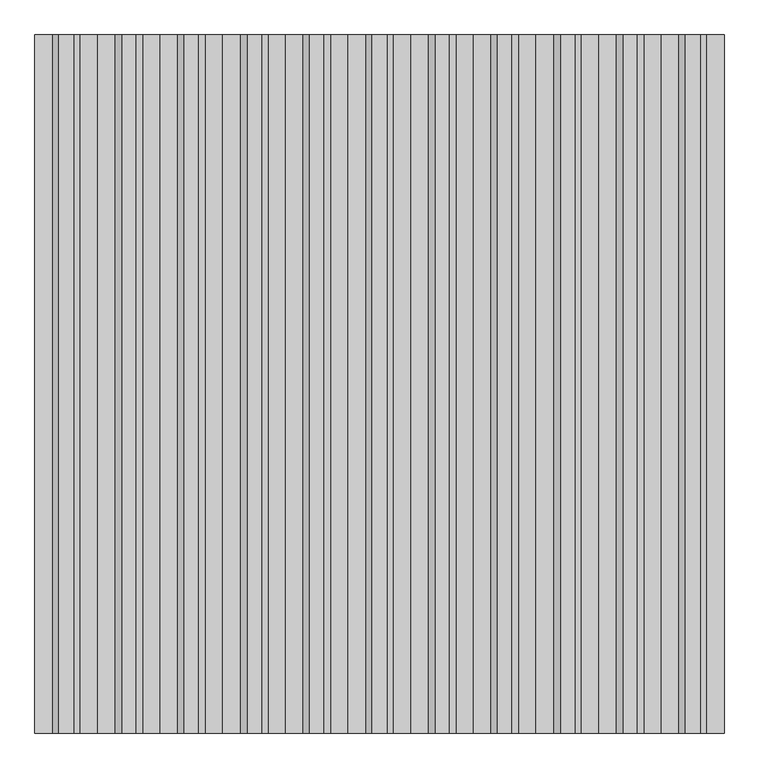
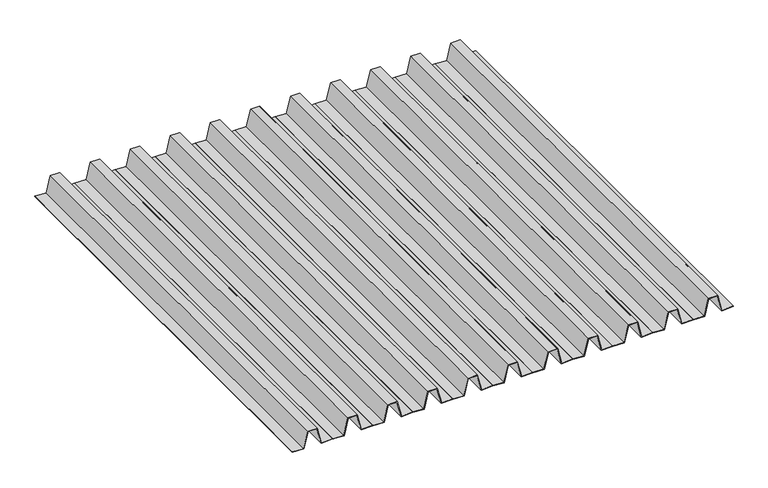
"""IFC4 building model written with IfcOpenShell, lengths in millimetres: proxy geometry, Renson_Amani_Fixed_Roof : Renson_Amani_Fixed_Roof."""

from ifc_helpers import new_model, si_unit, frame, origin, place, context, project, spatial, polyline, outline, extrude, source, transform, mapped, element, save


def generic_models_4f0bc909(model_context):
    return source(origin(), model_context, "Body", "SweptSolid", [
        extrude(outline(polyline([(2466.1350727, 2500.0), (2463.1322147, 2500.0), (2460.0, 2571.7403502), (2566.0797384, 2598.1893092), (2566.0797384, 2651.8176159), (2460.0, 2678.2596498), (2463.1322147, 2750.0), (2466.1350727, 2750.0), (2463.1040587, 2680.577555), (2569.0797384, 2654.1614661), (2569.0797384, 2595.845459), (2463.1040587, 2569.422445), (2466.1350727, 2500.0)])), frame((0.0, 0.0, 0.0), z_axis=(0.0, 1.0, 0.0), x_axis=(0.0, 0.0, 1.0)), (0.0, 0.0, 1.0), 2783.9903259),
        extrude(outline(polyline([(2466.1350727, 2250.0), (2463.1322147, 2250.0), (2460.0, 2321.7403502), (2566.0797384, 2348.1893092), (2566.0797384, 2401.8176159), (2460.0, 2428.2596498), (2463.1322147, 2500.0), (2466.1350727, 2500.0), (2463.1040587, 2430.577555), (2569.0797384, 2404.1614661), (2569.0797384, 2345.845459), (2463.1040587, 2319.422445), (2466.1350727, 2250.0)])), frame((0.0, 0.0, 0.0), z_axis=(0.0, 1.0, 0.0), x_axis=(0.0, 0.0, 1.0)), (0.0, 0.0, 1.0), 2783.9903259),
        extrude(outline(polyline([(2466.1350727, 2000.0), (2463.1322147, 2000.0), (2460.0, 2071.7403502), (2566.0797384, 2098.1893092), (2566.0797384, 2151.8176159), (2460.0, 2178.2596498), (2463.1322147, 2250.0), (2466.1350727, 2250.0), (2463.1040587, 2180.577555), (2569.0797384, 2154.1614661), (2569.0797384, 2095.845459), (2463.1040587, 2069.422445), (2466.1350727, 2000.0)])), frame((0.0, 0.0, 0.0), z_axis=(0.0, 1.0, 0.0), x_axis=(0.0, 0.0, 1.0)), (0.0, 0.0, 1.0), 2783.9903259),
        extrude(outline(polyline([(2466.1350727, 1750.0), (2463.1322147, 1750.0), (2460.0, 1821.7403502), (2566.0797384, 1848.1893092), (2566.0797384, 1901.8176159), (2460.0, 1928.2596498), (2463.1322147, 2000.0), (2466.1350727, 2000.0), (2463.1040587, 1930.577555), (2569.0797384, 1904.1614661), (2569.0797384, 1845.845459), (2463.1040587, 1819.422445), (2466.1350727, 1750.0)])), frame((0.0, 0.0, 0.0), z_axis=(0.0, 1.0, 0.0), x_axis=(0.0, 0.0, 1.0)), (0.0, 0.0, 1.0), 2783.9903259),
        extrude(outline(polyline([(2466.1350727, 1500.0), (2463.1322147, 1500.0), (2460.0, 1571.7403502), (2566.0797384, 1598.1893092), (2566.0797384, 1651.8176159), (2460.0, 1678.2596498), (2463.1322147, 1750.0), (2466.1350727, 1750.0), (2463.1040587, 1680.577555), (2569.0797384, 1654.1614661), (2569.0797384, 1595.845459), (2463.1040587, 1569.422445), (2466.1350727, 1500.0)])), frame((0.0, 0.0, 0.0), z_axis=(0.0, 1.0, 0.0), x_axis=(0.0, 0.0, 1.0)), (0.0, 0.0, 1.0), 2783.9903259),
        extrude(outline(polyline([(2466.1350727, 1250.0), (2463.1322147, 1250.0), (2460.0, 1321.7403502), (2566.0797384, 1348.1893092), (2566.0797384, 1401.8176159), (2460.0, 1428.2596498), (2463.1322147, 1500.0), (2466.1350727, 1500.0), (2463.1040587, 1430.577555), (2569.0797384, 1404.1614661), (2569.0797384, 1345.845459), (2463.1040587, 1319.422445), (2466.1350727, 1250.0)])), frame((0.0, 0.0, 0.0), z_axis=(0.0, 1.0, 0.0), x_axis=(0.0, 0.0, 1.0)), (0.0, 0.0, 1.0), 2783.9903259),
        extrude(outline(polyline([(2466.1350727, 1000.0), (2463.1322147, 1000.0), (2460.0, 1071.7403502), (2566.0797384, 1098.1893092), (2566.0797384, 1151.8176159), (2460.0, 1178.2596498), (2463.1322147, 1250.0), (2466.1350727, 1250.0), (2463.1040587, 1180.577555), (2569.0797384, 1154.1614661), (2569.0797384, 1095.845459), (2463.1040587, 1069.422445), (2466.1350727, 1000.0)])), frame((0.0, 0.0, 0.0), z_axis=(0.0, 1.0, 0.0), x_axis=(0.0, 0.0, 1.0)), (0.0, 0.0, 1.0), 2783.9903259),
        extrude(outline(polyline([(2466.1350727, 750.0), (2463.1322147, 750.0), (2460.0, 821.7403502), (2566.0797384, 848.1893092), (2566.0797384, 901.8176159), (2460.0, 928.2596498), (2463.1322147, 1000.0), (2466.1350727, 1000.0), (2463.1040587, 930.577555), (2569.0797384, 904.1614661), (2569.0797384, 845.845459), (2463.1040587, 819.422445), (2466.1350727, 750.0)])), frame((0.0, 0.0, 0.0), z_axis=(0.0, 1.0, 0.0), x_axis=(0.0, 0.0, 1.0)), (0.0, 0.0, 1.0), 2783.9903259),
        extrude(outline(polyline([(2466.1350727, 500.0), (2463.1322147, 500.0), (2460.0, 571.7403502), (2566.0797384, 598.1893092), (2566.0797384, 651.8176159), (2460.0, 678.2596498), (2463.1322147, 750.0), (2466.1350727, 750.0), (2463.1040587, 680.577555), (2569.0797384, 654.1614661), (2569.0797384, 595.845459), (2463.1040587, 569.422445), (2466.1350727, 500.0)])), frame((0.0, 0.0, 0.0), z_axis=(0.0, 1.0, 0.0), x_axis=(0.0, 0.0, 1.0)), (0.0, 0.0, 1.0), 2783.9903259),
        extrude(outline(polyline([(2466.1350727, 250.0), (2463.1322147, 250.0), (2460.0, 321.7403502), (2566.0797384, 348.1893092), (2566.0797384, 401.8176159), (2460.0, 428.2596498), (2463.1322147, 500.0), (2466.1350727, 500.0), (2463.1040587, 430.577555), (2569.0797384, 404.1614661), (2569.0797384, 345.845459), (2463.1040587, 319.422445), (2466.1350727, 250.0)])), frame((0.0, 0.0, 0.0), z_axis=(0.0, 1.0, 0.0), x_axis=(0.0, 0.0, 1.0)), (0.0, 0.0, 1.0), 2783.9903259),
        extrude(outline(polyline([(2466.1350727, 0.0), (2463.1322147, 0.0), (2460.0, 71.7403502), (2566.0797384, 98.1893092), (2566.0797384, 151.8176159), (2460.0, 178.2596498), (2463.1322147, 250.0), (2466.1350727, 250.0), (2463.1040587, 180.577555), (2569.0797384, 154.1614661), (2569.0797384, 95.845459), (2463.1040587, 69.422445), (2466.1350727, 0.0)])), frame((0.0, 0.0, 0.0), z_axis=(0.0, 1.0, 0.0), x_axis=(0.0, 0.0, 1.0)), (0.0, 0.0, 1.0), 2783.9903259),
    ])


if __name__ == "__main__":
    model = new_model("IFC4")
    model_context = context("Model", 3, world=origin())
    ifc_project = project(units=[si_unit("LENGTHUNIT", "METRE", prefix="MILLI")], contexts=[model_context])
    site = spatial("IfcSite", under=ifc_project)
    building = spatial("IfcBuilding", under=site)
    placement = place(None, origin())
    generic_models_shape = generic_models_4f0bc909(model_context)
    element("IfcBuildingElementProxy", 1, Name="Renson_Amani_Fixed_Roof : Renson_Amani_Fixed_Roof", ObjectType="Renson_Amani_Fixed_Roof : Renson_Amani_Fixed_Roof", at=placement, inside=building, context=model_context, shape_type="MappedRepresentation", body=[
        mapped(generic_models_shape, transform((0.0, 0.0, 0.0), x_axis=(1.0, 0.0, 0.0), y_axis=(0.0, 1.0, 0.0), z_axis=(0.0, 0.0, 1.0))),
    ])
    save(model, "model.ifc")
